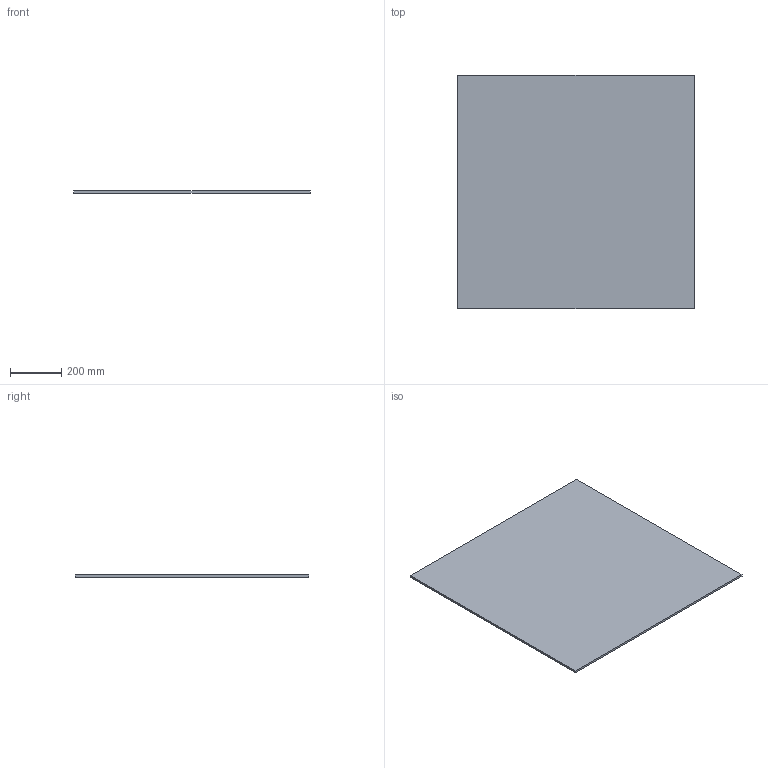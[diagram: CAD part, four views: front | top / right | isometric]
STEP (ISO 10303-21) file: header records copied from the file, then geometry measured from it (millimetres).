
FILE_DESCRIPTION (( 'STEP AP203' ), '1' );
FILE_NAME ('8 mm lamellglas, h_910.STEP', '2014-09-26T06:22:08', ( '' ), ( '' ), 'SwSTEP 2.0', 'SolidWorks 2014', '' );
FILE_SCHEMA (( 'CONFIG_CONTROL_DESIGN' ));
Length unit declared in the file: millimetre
Products named in the file (1): 8 mm lamellglas, h_910
Bounding box: 920 x 910 x 8 mm (x, y, z)
Volume: 6697600 mm3; surface area: 1703680 mm2
Topology: 1 solids, 1 shells, 6 faces, 12 edges, 8 vertices
Faces by surface type: plane 6
Entity records: 233 total; most frequent: CARTESIAN_POINT 27, DIRECTION 26, ORIENTED_EDGE 24, EDGE_CURVE 12, VECTOR 12, LINE 12, PERSON_AND_ORGANIZATION 8, VERTEX_POINT 8
